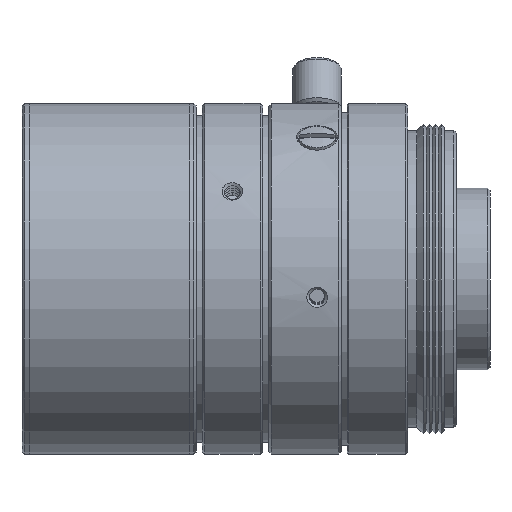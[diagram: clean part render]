
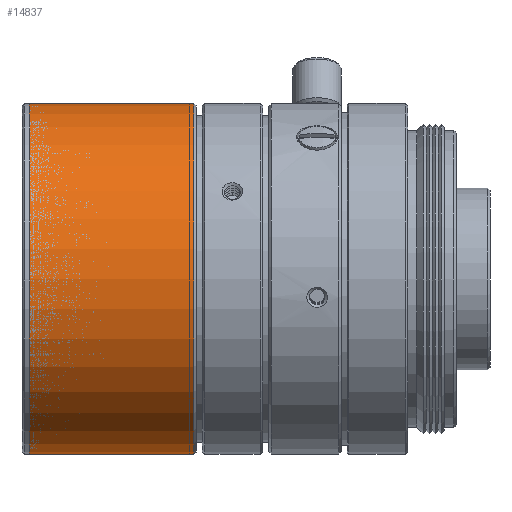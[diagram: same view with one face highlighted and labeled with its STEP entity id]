
A CAD part, front view. The second image highlights one B-rep face of the part: STEP entity #14837.
In plain terms, the highlighted cylindrical face has radius 14.5 mm (diameter 29 mm), a full revolution.
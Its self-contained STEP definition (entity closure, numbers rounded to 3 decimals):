
#938=CYLINDRICAL_SURFACE('',#16535,14.5);
#1164=ORIENTED_EDGE('',*,*,#4630,.T.);
#1165=ORIENTED_EDGE('',*,*,#4629,.F.);
#4629=EDGE_CURVE('',#6371,#6371,#7891,.T.);
#4630=EDGE_CURVE('',#6372,#6372,#7892,.T.);
#6371=VERTEX_POINT('',#24555);
#6372=VERTEX_POINT('',#24558);
#7891=CIRCLE('',#16534,14.5);
#7892=CIRCLE('',#16536,14.5);
#9198=EDGE_LOOP('',(#1164));
#9199=EDGE_LOOP('',(#1165));
#11592=FACE_BOUND('',#9198,.T.);
#11593=FACE_BOUND('',#9199,.T.);
#14837=ADVANCED_FACE('',(#11592,#11593),#938,.T.);
#16534=AXIS2_PLACEMENT_3D('',#24554,#19172,#19173);
#16535=AXIS2_PLACEMENT_3D('',#24556,#19174,#19175);
#16536=AXIS2_PLACEMENT_3D('',#24557,#19176,#19177);
#19172=DIRECTION('',(-1.,0.,0.));
#19173=DIRECTION('',(0.,1.,0.));
#19174=DIRECTION('',(1.,0.,0.));
#19175=DIRECTION('',(0.,1.,0.));
#19176=DIRECTION('',(-1.,0.,0.));
#19177=DIRECTION('',(0.,1.,0.));
#24554=CARTESIAN_POINT('',(-48.8,0.,0.));
#24555=CARTESIAN_POINT('',(-48.8,14.5,0.));
#24556=CARTESIAN_POINT('',(-42.,0.,0.));
#24557=CARTESIAN_POINT('',(-35.2,0.,0.));
#24558=CARTESIAN_POINT('',(-35.2,14.5,0.));
